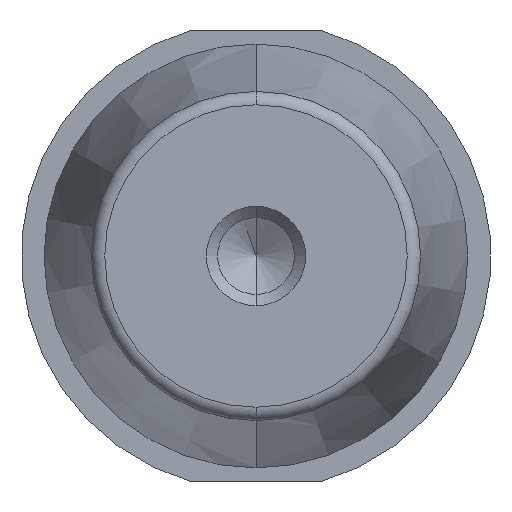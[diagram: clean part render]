
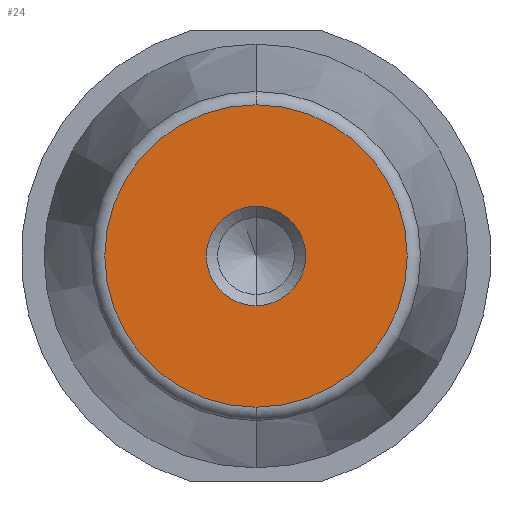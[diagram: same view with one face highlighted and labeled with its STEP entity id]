
A CAD part, front view. The second image highlights one B-rep face of the part: STEP entity #24.
In plain terms, the highlighted planar face has unit normal (0, -1, 0).
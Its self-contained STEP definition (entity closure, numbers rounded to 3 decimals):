
#19 = ORIENTED_EDGE ( 'NONE', *, *, #802, .T. ) ;
#24 = ADVANCED_FACE ( 'NONE', ( #384, #348 ), #144, .F. ) ;
#50 = VERTEX_POINT ( 'NONE', #261 ) ;
#92 = AXIS2_PLACEMENT_3D ( 'NONE', #208, #751, #635 ) ;
#100 = VERTEX_POINT ( 'NONE', #331 ) ;
#119 = CARTESIAN_POINT ( 'NONE',  ( 0., -38., 0. ) ) ;
#122 = DIRECTION ( 'NONE',  ( 0., -1., 0. ) ) ;
#125 = DIRECTION ( 'NONE',  ( 0., 0., -1. ) ) ;
#128 = EDGE_LOOP ( 'NONE', ( #19, #665 ) ) ;
#131 = EDGE_CURVE ( 'NONE', #663, #654, #188, .T. ) ;
#144 = PLANE ( 'NONE',  #92 ) ;
#147 = CIRCLE ( 'NONE', #727, 16.741 ) ;
#184 = DIRECTION ( 'NONE',  ( 0., 0., 1. ) ) ;
#188 = CIRCLE ( 'NONE', #467, 5.5 ) ;
#208 = CARTESIAN_POINT ( 'NONE',  ( 0., -38., 0. ) ) ;
#225 = EDGE_LOOP ( 'NONE', ( #773, #670 ) ) ;
#261 = CARTESIAN_POINT ( 'NONE',  ( 0., -38., 16.741 ) ) ;
#266 = AXIS2_PLACEMENT_3D ( 'NONE', #385, #687, #125 ) ;
#282 = DIRECTION ( 'NONE',  ( 0., 0., -1. ) ) ;
#331 = CARTESIAN_POINT ( 'NONE',  ( 0., -38., -16.741 ) ) ;
#340 = DIRECTION ( 'NONE',  ( 0., -1., 0. ) ) ;
#346 = CIRCLE ( 'NONE', #266, 5.5 ) ;
#348 = FACE_BOUND ( 'NONE', #225, .T. ) ;
#384 = FACE_OUTER_BOUND ( 'NONE', #128, .T. ) ;
#385 = CARTESIAN_POINT ( 'NONE',  ( 0., -38., 0. ) ) ;
#427 = CARTESIAN_POINT ( 'NONE',  ( 0., -38., 0. ) ) ;
#467 = AXIS2_PLACEMENT_3D ( 'NONE', #638, #340, #282 ) ;
#473 = EDGE_CURVE ( 'NONE', #654, #663, #346, .T. ) ;
#551 = DIRECTION ( 'NONE',  ( 0., -1., 0. ) ) ;
#612 = CIRCLE ( 'NONE', #718, 16.741 ) ;
#633 = CARTESIAN_POINT ( 'NONE',  ( 0., -38., -5.5 ) ) ;
#635 = DIRECTION ( 'NONE',  ( 1., 0., 0. ) ) ;
#638 = CARTESIAN_POINT ( 'NONE',  ( 0., -38., 0. ) ) ;
#654 = VERTEX_POINT ( 'NONE', #717 ) ;
#663 = VERTEX_POINT ( 'NONE', #633 ) ;
#665 = ORIENTED_EDGE ( 'NONE', *, *, #776, .T. ) ;
#670 = ORIENTED_EDGE ( 'NONE', *, *, #473, .F. ) ;
#687 = DIRECTION ( 'NONE',  ( 0., -1., 0. ) ) ;
#717 = CARTESIAN_POINT ( 'NONE',  ( 0., -38., 5.5 ) ) ;
#718 = AXIS2_PLACEMENT_3D ( 'NONE', #427, #551, #184 ) ;
#727 = AXIS2_PLACEMENT_3D ( 'NONE', #119, #122, #792 ) ;
#751 = DIRECTION ( 'NONE',  ( 0., 1., 0. ) ) ;
#773 = ORIENTED_EDGE ( 'NONE', *, *, #131, .F. ) ;
#776 = EDGE_CURVE ( 'NONE', #100, #50, #147, .T. ) ;
#792 = DIRECTION ( 'NONE',  ( 0., 0., 1. ) ) ;
#802 = EDGE_CURVE ( 'NONE', #50, #100, #612, .T. ) ;
